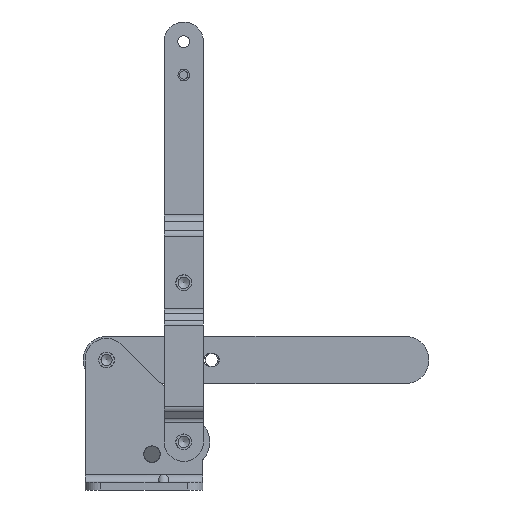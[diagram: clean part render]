
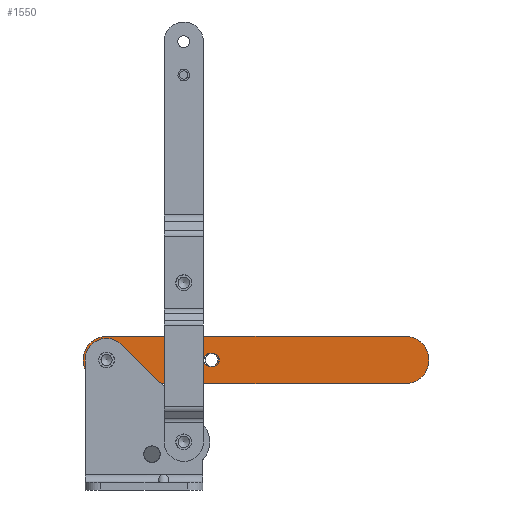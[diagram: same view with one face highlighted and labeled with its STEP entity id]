
A CAD part, front view. The second image highlights one B-rep face of the part: STEP entity #1550.
In plain terms, the highlighted planar face has unit normal (0, -1, 0).
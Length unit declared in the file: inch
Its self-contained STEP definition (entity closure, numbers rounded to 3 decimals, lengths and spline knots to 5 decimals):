
#383=FACE_BOUND('',#3643,.T.);
#384=FACE_BOUND('',#3644,.T.);
#385=FACE_BOUND('',#3645,.T.);
#767=PLANE('',#18441);
#1550=ADVANCED_FACE('',(#383,#384,#385,#2735),#767,.T.);
#2735=FACE_OUTER_BOUND('',#3646,.T.);
#3643=EDGE_LOOP('',(#9031));
#3644=EDGE_LOOP('',(#9032));
#3645=EDGE_LOOP('',(#9033));
#3646=EDGE_LOOP('',(#9034,#9035,#9036,#9037));
#4909=LINE('',#24626,#6961);
#4912=LINE('',#24650,#6964);
#6961=VECTOR('',#19814,1.);
#6964=VECTOR('',#19843,1.);
#9031=ORIENTED_EDGE('',*,*,#15617,.F.);
#9032=ORIENTED_EDGE('',*,*,#15615,.F.);
#9033=ORIENTED_EDGE('',*,*,#15613,.F.);
#9034=ORIENTED_EDGE('',*,*,#15605,.T.);
#9035=ORIENTED_EDGE('',*,*,#15609,.T.);
#9036=ORIENTED_EDGE('',*,*,#15612,.T.);
#9037=ORIENTED_EDGE('',*,*,#15620,.T.);
#13907=VERTEX_POINT('',#24617);
#13908=VERTEX_POINT('',#24619);
#13910=VERTEX_POINT('',#24625);
#13912=VERTEX_POINT('',#24631);
#13913=VERTEX_POINT('',#24635);
#13915=VERTEX_POINT('',#24640);
#13917=VERTEX_POINT('',#24645);
#15605=EDGE_CURVE('',#13908,#13907,#18052,.T.);
#15609=EDGE_CURVE('',#13907,#13910,#4909,.T.);
#15612=EDGE_CURVE('',#13910,#13912,#18054,.T.);
#15613=EDGE_CURVE('',#13913,#13913,#18055,.T.);
#15615=EDGE_CURVE('',#13915,#13915,#18057,.T.);
#15617=EDGE_CURVE('',#13917,#13917,#18059,.T.);
#15620=EDGE_CURVE('',#13912,#13908,#4912,.T.);
#18052=CIRCLE('',#18425,0.375);
#18054=CIRCLE('',#18429,0.375);
#18055=CIRCLE('',#18431,0.189);
#18057=CIRCLE('',#18434,0.189);
#18059=CIRCLE('',#18437,0.109);
#18425=AXIS2_PLACEMENT_3D('',#24618,#19807,#19808);
#18429=AXIS2_PLACEMENT_3D('',#24632,#19820,#19821);
#18431=AXIS2_PLACEMENT_3D('',#24634,#19824,#19825);
#18434=AXIS2_PLACEMENT_3D('',#24639,#19830,#19831);
#18437=AXIS2_PLACEMENT_3D('',#24644,#19836,#19837);
#18441=AXIS2_PLACEMENT_3D('',#24652,#19846,#19847);
#19807=DIRECTION('',(0.,-1.,0.));
#19808=DIRECTION('',(1.,0.,0.));
#19814=DIRECTION('',(-1.,0.,0.));
#19820=DIRECTION('',(0.,-1.,0.));
#19821=DIRECTION('',(1.,0.,0.));
#19824=DIRECTION('',(0.,-1.,0.));
#19825=DIRECTION('',(1.,0.,-0.022));
#19830=DIRECTION('',(0.,-1.,0.));
#19831=DIRECTION('',(1.,0.,-0.022));
#19836=DIRECTION('',(0.,-1.,0.));
#19837=DIRECTION('',(1.,0.,-0.022));
#19843=DIRECTION('',(1.,0.,0.));
#19846=DIRECTION('',(0.,-1.,0.));
#19847=DIRECTION('',(0.,0.,-1.));
#24617=CARTESIAN_POINT('',(3.523,-0.1565,1.677));
#24618=CARTESIAN_POINT('',(3.523,-0.1565,1.302));
#24619=CARTESIAN_POINT('',(3.523,-0.1565,0.927));
#24625=CARTESIAN_POINT('',(-1.227,-0.1565,1.677));
#24626=CARTESIAN_POINT('',(3.523,-0.1565,1.677));
#24631=CARTESIAN_POINT('',(-1.227,-0.1565,0.927));
#24632=CARTESIAN_POINT('',(-1.227,-0.1565,1.302));
#24634=CARTESIAN_POINT('',(-1.227,-0.1565,1.302));
#24635=CARTESIAN_POINT('',(-1.03805,-0.1565,1.29784));
#24639=CARTESIAN_POINT('',(0.,-0.1565,1.302));
#24640=CARTESIAN_POINT('',(0.18895,-0.1565,1.29784));
#24644=CARTESIAN_POINT('',(0.429,-0.1565,1.302));
#24645=CARTESIAN_POINT('',(0.53797,-0.1565,1.2996));
#24650=CARTESIAN_POINT('',(-1.227,-0.1565,0.927));
#24652=CARTESIAN_POINT('',(3.523,-0.1565,1.302));
